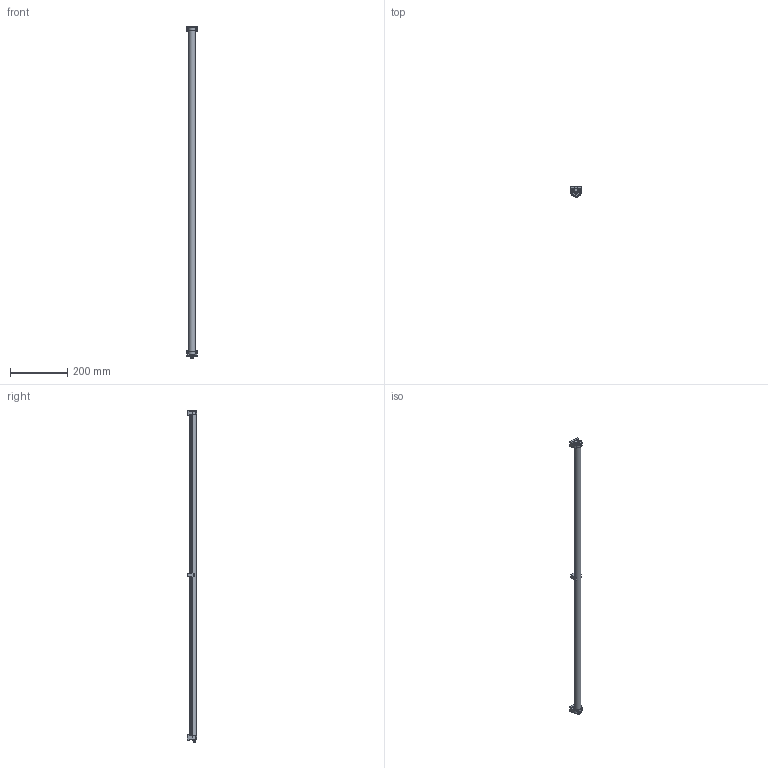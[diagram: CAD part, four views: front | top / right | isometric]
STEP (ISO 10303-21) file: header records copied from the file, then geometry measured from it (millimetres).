
FILE_DESCRIPTION(/* description */ (''),/* implementation_level */ '2;1');
FILE_NAME(/* name */ 'G:\Daten\Leuchten\06100 - LED ELN - ELN-RGBW\03 - CAD\ELN1120\sangel-systemtechnik-led-maschinenleuchten-signalleuchte-eln-1120-rgb-cad_rev.1.stp',/* time_stamp */ '2021-03-23T13:52:40+01:00',/* author */ ('gzahn'),/* organization */ (''),/* preprocessor_version */ 'ST-DEVELOPER v16.13',/* originating_system */ 'Autodesk Inventor 2018',/* authorisation */ '');
FILE_SCHEMA (('AUTOMOTIVE_DESIGN { 1 0 10303 214 3 1 1 }'));
Length unit declared in the file: millimetre
Products named in the file (1): TEST_Substitute_1
Bounding box: 35 x 34.07 x 1156.02 mm (x, y, z)
Volume: 441207.2 mm3; surface area: 107076.5 mm2
Topology: 2 solids, 2 shells, 459 faces, 1304 edges, 856 vertices
Faces by surface type: plane 206, cylinder 125, cone 70, bspline 54, torus 4
Full cylindrical faces by diameter (mm): 1 x4, 4.4 x2, 4.5 x1, 5.8 x1, 7.3 x4, 7.4 x2, 7.5 x1, 8 x1
Entity records: 18724 total; most frequent: CARTESIAN_POINT 6518, ORIENTED_EDGE 2522, DIRECTION 2366, EDGE_CURVE 1261, AXIS2_PLACEMENT_3D 854, VERTEX_POINT 843, LINE 658, VECTOR 658
